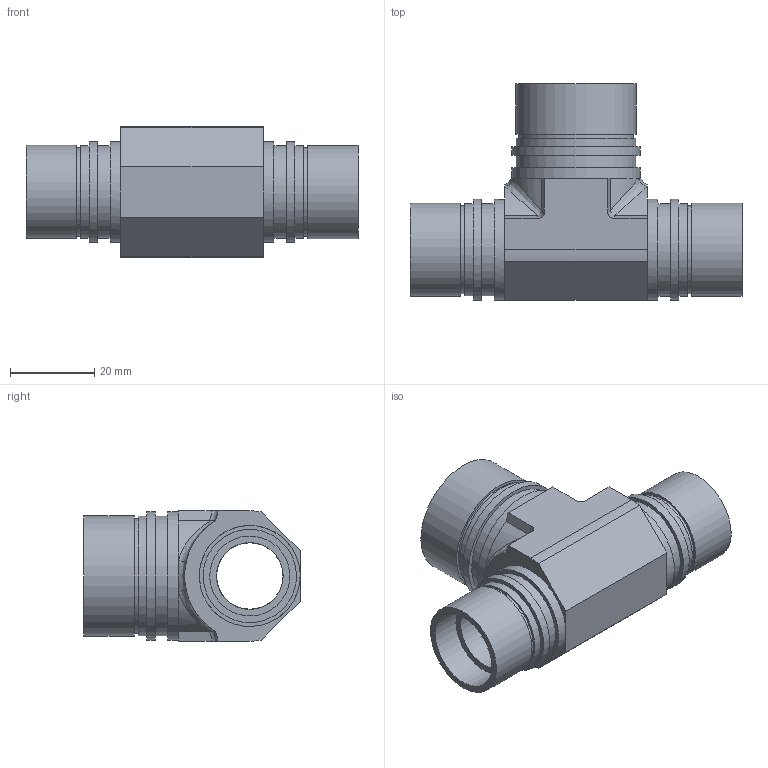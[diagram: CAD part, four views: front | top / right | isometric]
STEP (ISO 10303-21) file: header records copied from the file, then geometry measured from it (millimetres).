
FILE_DESCRIPTION (( 'STEP AP203' ), '1' );
FILE_NAME ('70-19.05RUBT25.4-P.STEP', '2013-09-05T04:12:21', ( '' ), ( '' ), 'SwSTEP 2.0', 'SolidWorks 2012', '' );
FILE_SCHEMA (( 'CONFIG_CONTROL_DESIGN' ));
Length unit declared in the file: millimetre
Products named in the file (2): 70-19.05RUBT25.4-P; Part3^70-19.05RUBT25.4-P
Assembly tree (1 placements, depth 2):
  70-19.05RUBT25.4-P
    Part3^70-19.05RUBT25.4-P
Bounding box: 79 x 51.5 x 31 mm (x, y, z)
Volume: 27525 mm3; surface area: 16499.5 mm2
Topology: 1 solids, 1 shells, 88 faces, 183 edges, 118 vertices
Faces by surface type: plane 40, cylinder 40, bspline 6, cone 2
Full cylindrical faces by diameter (mm): 15.8 x1, 15.9 x2, 19.05 x2, 21 x2, 22 x4, 22.15 x1, 22.2 x3, 24 x4, 25.4 x1, 27.35 x1, 28.5 x2, 28.65 x1, 30.5 x2
Entity records: 2720 total; most frequent: CARTESIAN_POINT 786, DIRECTION 370, ORIENTED_EDGE 306, AXIS2_PLACEMENT_3D 159, EDGE_CURVE 153, EDGE_LOOP 140, VERTEX_POINT 115, FACE_OUTER_BOUND 114
